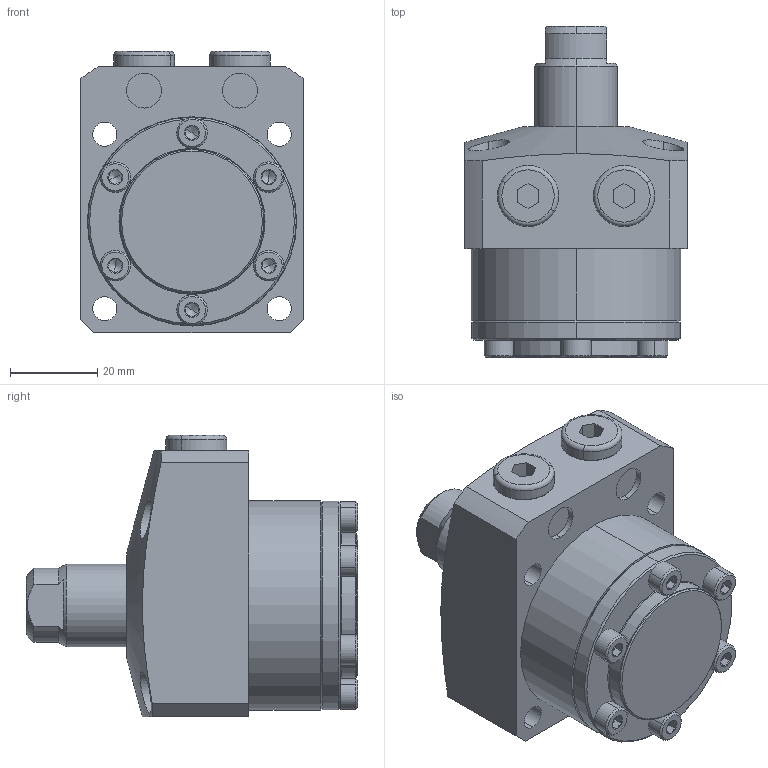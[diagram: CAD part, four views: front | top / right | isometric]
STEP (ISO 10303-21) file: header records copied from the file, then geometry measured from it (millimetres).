
FILE_DESCRIPTION (( 'STEP AP203' ), '1' );
FILE_NAME ('680480-CA-015.STEP', '2019-11-06T04:35:58', ( '微软用户' ), ( '微软中国' ), 'SwSTEP 2.0', 'SolidWorks 2014', '' );
FILE_SCHEMA (( 'CONFIG_CONTROL_DESIGN' ));
Length unit declared in the file: millimetre
Products named in the file (6): 葩璃 680480-CA-15-1^680480-CA-015; 葩璃 680480-CA-15-2^680480-CA-015; 葩璃 680480-CA-15-3^680480-CA-015; 葩璃 680480-CA-15-4^680480-CA-015; 葩璃 680480-CA-15-5^680480-CA-015; 680480-CA-015
Assembly tree (11 placements, depth 2):
  680480-CA-015
    葩璃 680480-CA-15-1^680480-CA-015
    葩璃 680480-CA-15-2^680480-CA-015
    葩璃 680480-CA-15-3^680480-CA-015
    葩璃 680480-CA-15-4^680480-CA-015  x6
    葩璃 680480-CA-15-5^680480-CA-015  x2
Bounding box: 51 x 76 x 64.5 mm (x, y, z)
Volume: 118588 mm3; surface area: 27691.4 mm2
Topology: 11 solids, 11 shells, 345 faces, 675 edges, 370 vertices
Faces by surface type: plane 140, cone 96, cylinder 93, torus 16
Entity records: 5671 total; most frequent: CARTESIAN_POINT 1180, DIRECTION 859, ORIENTED_EDGE 698, AXIS2_PLACEMENT_3D 360, EDGE_CURVE 349, VERTEX_POINT 213, EDGE_LOOP 202, CIRCLE 182
